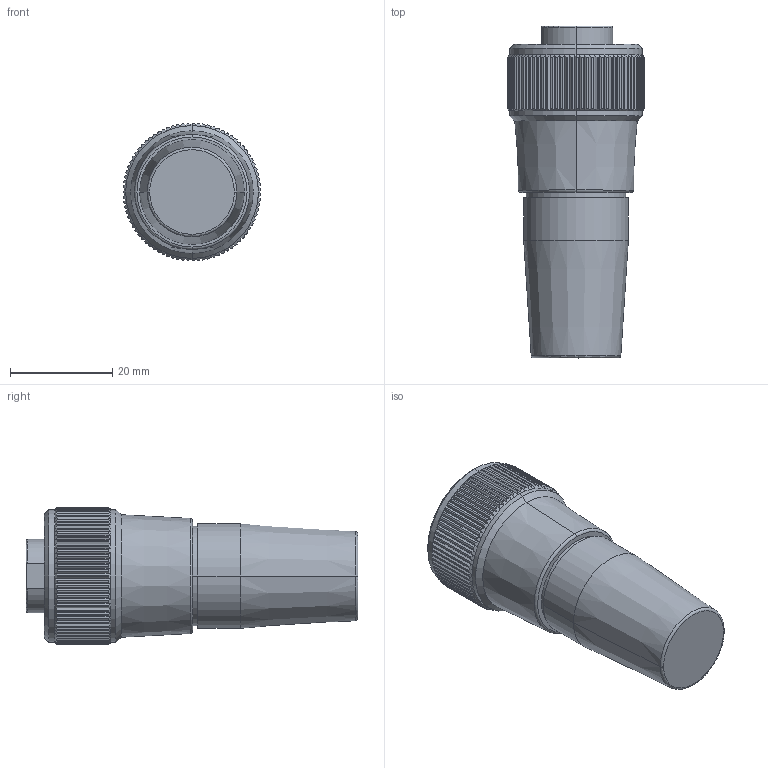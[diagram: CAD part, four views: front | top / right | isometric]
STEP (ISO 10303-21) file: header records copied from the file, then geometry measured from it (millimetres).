
FILE_DESCRIPTION (( 'STEP AP203' ), '1' );
FILE_NAME ('RKM-A-14AWG.step', '2016-10-25T13:18:57', ( 'Turck User' ), ( '' ), 'SwSTEP 2.0', 'SolidWorks 2015', '' );
FILE_SCHEMA (( 'CONFIG_CONTROL_DESIGN' ));
Length unit declared in the file: millimetre
Products named in the file (2): RKM-A-14AWG
Bounding box: 27 x 65 x 27 mm (x, y, z)
Volume: 23002.1 mm3; surface area: 6759.9 mm2
Topology: 1 solids, 1 shells, 304 faces, 862 edges, 568 vertices
Faces by surface type: plane 179, cylinder 104, cone 14, torus 5, bspline 2
Entity records: 10548 total; most frequent: CARTESIAN_POINT 2962, ORIENTED_EDGE 1724, DIRECTION 1359, EDGE_CURVE 862, VERTEX_POINT 568, AXIS2_PLACEMENT_3D 533, B_SPLINE_CURVE_WITH_KNOTS 340, EDGE_LOOP 312
